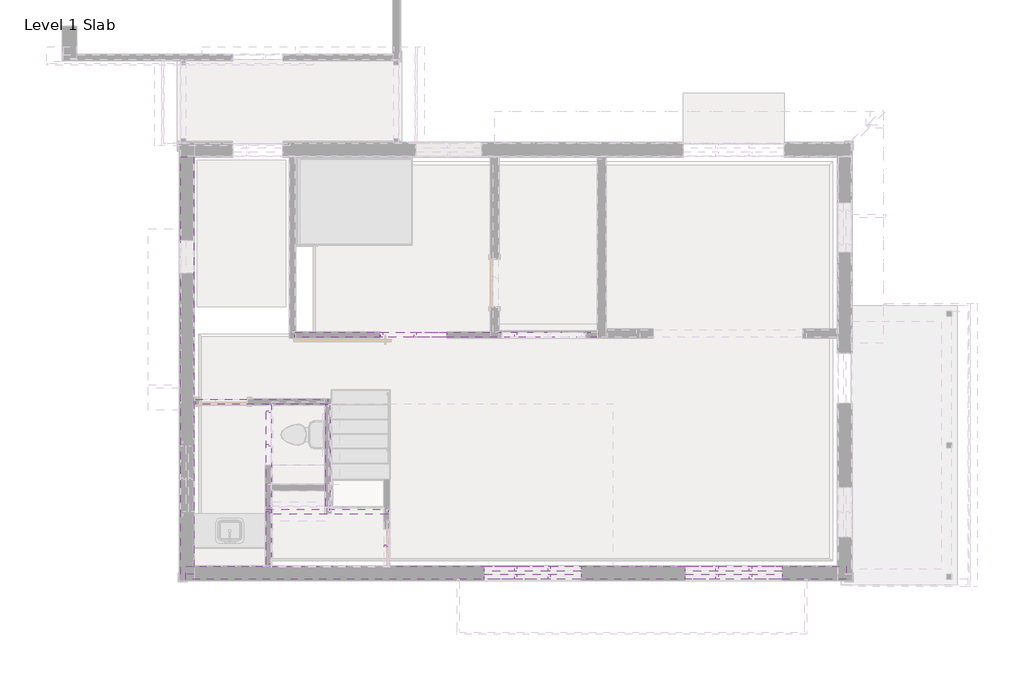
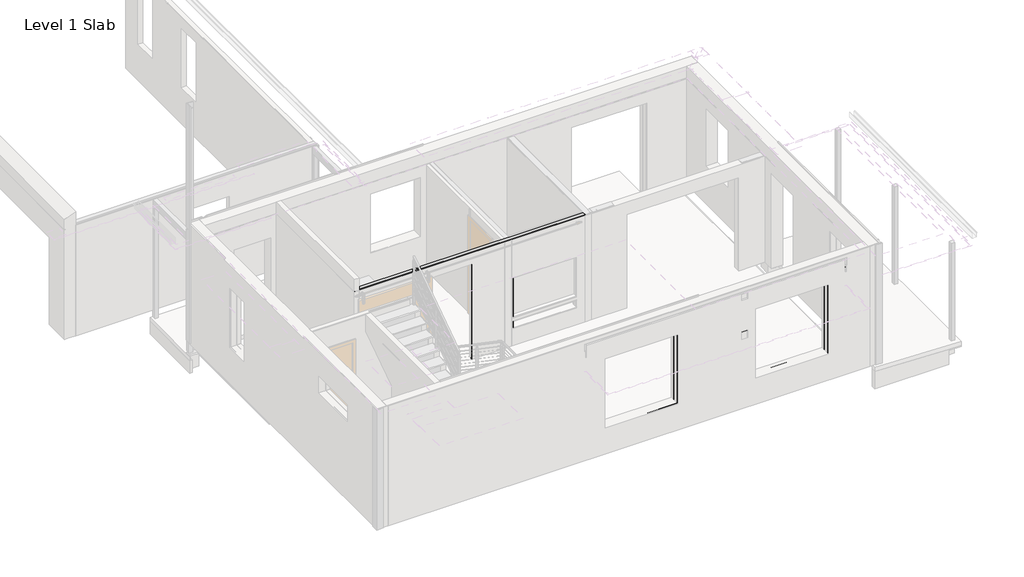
# One storey, part 6 of 11: 111 beams, 7 columns.
"""IFC4 building model written with IfcOpenShell, lengths in millimetres."""

from ifc_helpers import new_model, si_unit, frame, origin, origin_with_axes, place, context, project, spatial, polyline, outline, extrude, transform, mapped, element, save
from components import dimension_lumber_2x10_c92a85eb, dimension_lumber_2x2_2317ed5d, dimension_lumber_2x4_b7cbdda3, dimension_lumber_2x4_453c5e2a, dimension_lumber_2x4_9c6b7c22, dimension_lumber_2x4_907f3222, dimension_lumber_2x4_d0982e5f, dimension_lumber_2x4_7c62d23e, dimension_lumber_2x4_ef0ca650, dimension_lumber_2x4_1f531fe0, dimension_lumber_2x4_5fd0c0f3, dimension_lumber_2x4_c9b014b3, dimension_lumber_2x4_dd57d4c7, dimension_lumber_2x4_e5914599, dimension_lumber_2x4_663c5fc9, dimension_lumber_2x4_fd4f4c12, dimension_lumber_2x4_17c131d4, dimension_lumber_2x4_55c8757b, dimension_lumber_2x4_9698a521, dimension_lumber_2x4_aa235227, dimension_lumber_2x4_f36af3d6, dimension_lumber_2x4_25ed4124, dimension_lumber_2x4_69613563, dimension_lumber_2x4_8f77fd17, dimension_lumber_2x4_229769bb, dimension_lumber_2x4_09187953, dimension_lumber_2x4_d2ad68aa, dimension_lumber_2x4_ecf07961, dimension_lumber_2x4_0db79c5e, dimension_lumber_2x4_a540ea83, dimension_lumber_2x4_6003b979, dimension_lumber_2x4_857fd039, dimension_lumber_2x6_a165007b, dimension_lumber_4x10_6f7111f1, dimension_lumber_4x6_36e82c96, dimension_lumber_4x8_ae6d369a, dimension_lumber_4x8_cd9e6e79, dimension_lumber_4x8_08470016, column_4bd45d62, column_24c5454e

model = new_model("IFC4")

# Units and contexts
model_context = context("Model", 3, world=origin())
ifc_project = project(units=[si_unit("LENGTHUNIT", "METRE", prefix="MILLI")], contexts=[model_context])

# Site, building, storey
site = spatial("IfcSite", under=ifc_project)
building = spatial("IfcBuilding", under=site)
storey = spatial("IfcBuildingStorey", under=building, Name="Level 1 Slab", Elevation=0.0)

# Beams
placement = place(None, origin())
element("IfcBeam", 1, ObjectType="Dimension Lumber : 2x10", at=placement, inside=storey, context=model_context, shape_type="SweptSolid", body=[
    extrude(outline(polyline([(-13177.1678637, -4576.2650713), (-13177.1678637, -4341.3150713), (-1162.9678637, -4341.3150713), (-1162.9678637, -4576.2650713), (-13177.1678637, -4576.2650713)])), frame((0.0, 0.0, 2705.1), z_axis=(0.0, 0.0, 1.0), x_axis=(1.0, 0.0, 0.0)), (0.0, 0.0, 1.0), 38.1),
])
dimension_lumber_2x10_shape = dimension_lumber_2x10_c92a85eb(model_context)
element("IfcBeam", 2, ObjectType="Dimension Lumber : 2x10", at=placement, inside=storey, context=model_context, shape_type="MappedRepresentation", body=[
    mapped(dimension_lumber_2x10_shape, transform((-13148.5928637, -733.5040942, 2724.15), x_axis=(0.0, 1.0, 0.0), y_axis=(0.0, 0.0, -1.0), z_axis=(-1.0, 0.0, 0.0))),
])
dimension_lumber_2x2_shape = dimension_lumber_2x2_2317ed5d(model_context)
element("IfcBeam", 3, ObjectType="Dimension Lumber : 2x2", at=placement, inside=storey, context=model_context, shape_type="MappedRepresentation", body=[
    mapped(dimension_lumber_2x2_shape, transform((-7805.0678637, -4557.2150713, 1371.6), x_axis=(0.0, 0.0, 1.0), y_axis=(1.0, 0.0, 0.0), z_axis=(0.0, 1.0, 0.0))),
])
element("IfcBeam", 4, ObjectType="Dimension Lumber : 2x2", at=placement, inside=storey, context=model_context, shape_type="MappedRepresentation", body=[
    mapped(dimension_lumber_2x2_shape, transform((-5925.4678637, -4557.2150713, 1371.6), x_axis=(0.0, 0.0, 1.0), y_axis=(1.0, 0.0, 0.0), z_axis=(0.0, 1.0, 0.0))),
])
element("IfcBeam", 5, ObjectType="Dimension Lumber : 2x4", at=placement, inside=storey, context=model_context, shape_type="SweptSolid", body=[
    extrude(outline(polyline([(-1074.0678637, -4487.3650713), (-1074.0678637, -4576.2650713), (-13177.1678637, -4576.2650713), (-13177.1678637, -4487.3650713), (-1074.0678637, -4487.3650713)])), origin_with_axes(), (0.0, 0.0, 1.0), 38.1),
])
element("IfcBeam", 6, ObjectType="Dimension Lumber : 2x4", at=placement, inside=storey, context=model_context, shape_type="SweptSolid", body=[
    extrude(outline(polyline([(-1220.1178637, -4341.3150713), (-1220.1178637, -4430.2150713), (-1258.2178637, -4430.2150713), (-1258.2178637, -4341.3150713), (-1220.1178637, -4341.3150713)])), frame((0.0, 0.0, 38.1), z_axis=(0.0, 0.0, 1.0), x_axis=(1.0, 0.0, 0.0)), (0.0, 0.0, 1.0), 2667.0),
])
element("IfcBeam", 7, ObjectType="Dimension Lumber : 2x4", at=placement, inside=storey, context=model_context, shape_type="SweptSolid", body=[
    extrude(outline(polyline([(-10592.6970616, -1306.0150713), (-10592.6970616, -1394.9150713), (-12993.0178637, -1394.9150713), (-12993.0178637, -1306.0150713), (-10592.6970616, -1306.0150713)])), frame((0.0, 0.0, 2705.1), z_axis=(0.0, 0.0, 1.0), x_axis=(1.0, 0.0, 0.0)), (0.0, 0.0, 1.0), 38.1),
])
element("IfcBeam", 8, ObjectType="Dimension Lumber : 2x4", at=placement, inside=storey, context=model_context, shape_type="SweptSolid", body=[
    extrude(outline(polyline([(-12053.2078637, -1394.9150713), (-12053.2078637, -1306.0150713), (-10630.7970616, -1306.0150713), (-10630.7970616, -1394.9150713), (-12053.2078637, -1394.9150713)])), origin_with_axes(), (0.0, 0.0, 1.0), 38.1),
])
element("IfcBeam", 9, ObjectType="Dimension Lumber : 2x4", at=placement, inside=storey, context=model_context, shape_type="SweptSolid", body=[
    extrude(outline(polyline([(-10630.7970616, -1394.9150713), (-10541.8970616, -1394.9150713), (-10541.8970616, -3338.8234188), (-10630.7970616, -3338.8234188), (-10630.7970616, -1394.9150713)])), origin_with_axes(), (0.0, 0.0, 1.0), 38.1),
])
element("IfcBeam", 10, ObjectType="Dimension Lumber : 2x4", at=placement, inside=storey, context=model_context, shape_type="SweptSolid", body=[
    extrude(outline(polyline([(-10541.8970616, -1433.0250713), (-10630.7970616, -1433.0250713), (-10630.7970616, -1394.9250713), (-10541.8970616, -1394.9250713), (-10541.8970616, -1433.0250713)])), frame((0.0, 0.0, 38.1000006), z_axis=(0.0, 0.0, 1.0), x_axis=(1.0, 0.0, 0.0)), (0.0, 0.0, 1.0), 2548.6843055),
])
element("IfcBeam", 11, ObjectType="Dimension Lumber : 2x4", at=placement, inside=storey, context=model_context, shape_type="SweptSolid", body=[
    extrude(outline(polyline([(0.0, -10630.7970616), (38.1, -10630.7970616), (38.1, -11583.3178637), (0.0, -11621.4178637), (0.0, -10630.7970616)])), frame((0.0, -2957.0150713, 0.0), z_axis=(0.0, 1.0, 0.0), x_axis=(0.0, 0.0, 1.0)), (0.0, 0.0, 1.0), 88.9),
])
element("IfcBeam", 12, ObjectType="Dimension Lumber : 2x4", at=placement, inside=storey, context=model_context, shape_type="SweptSolid", body=[
    extrude(outline(polyline([(-10630.7970616, -2868.1150713), (-10630.7970616, -2957.0150713), (-10668.8970616, -2957.0150713), (-10668.8970616, -2868.1150713), (-10630.7970616, -2868.1150713)])), frame((0.0, 0.0, 38.1), z_axis=(0.0, 0.0, 1.0), x_axis=(1.0, 0.0, 0.0)), (0.0, 0.0, 1.0), 1538.9665467),
])
element("IfcBeam", 13, ObjectType="Dimension Lumber : 2x4", at=placement, inside=storey, context=model_context, shape_type="SweptSolid", body=[
    extrude(outline(polyline([(-11710.3178637, -2550.6150713), (-11621.4178637, -2550.6150713), (-11621.4178637, -4303.2150713), (-11710.3178637, -4303.2150713), (-11710.3178637, -2550.6150713)])), origin_with_axes(), (0.0, 0.0, 1.0), 38.1),
])
element("IfcBeam", 14, ObjectType="Dimension Lumber : 2x4", at=placement, inside=storey, context=model_context, shape_type="SweptSolid", body=[
    extrude(outline(polyline([(1577.0665467, -11583.3178637), (1577.0665467, -11621.4178637), (0.0, -11621.4178637), (38.1, -11583.3178637), (1577.0665467, -11583.3178637)])), frame((0.0, -2957.0150713, 0.0), z_axis=(0.0, 1.0, 0.0), x_axis=(0.0, 0.0, 1.0)), (0.0, 0.0, 1.0), 88.9),
])
element("IfcBeam", 15, ObjectType="Dimension Lumber : 2x4", at=placement, inside=storey, context=model_context, shape_type="SweptSolid", body=[
    extrude(outline(polyline([(-11189.6178637, -175.7150713), (-11189.6178637, -86.8150713), (-9735.4678637, -86.8150713), (-9735.4678637, -175.7150713), (-11189.6178637, -175.7150713)])), origin_with_axes(), (0.0, 0.0, 1.0), 38.1),
])
element("IfcBeam", 16, ObjectType="Dimension Lumber : 2x4", at=placement, inside=storey, context=model_context, shape_type="SweptSolid", body=[
    extrude(outline(polyline([(0.0, -88.9), (0.0, 0.0), (2225.2324098, 0.0), (2225.2324098, -88.9), (0.0, -88.9)])), frame((-11710.3178637, -3231.0724752, 1378.0514603), z_axis=(0.0, -0.5578690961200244, 0.8299289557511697), x_axis=(0.0, 0.8299289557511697, 0.5578690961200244)), (0.0, 0.0, 1.0), 38.1),
])
element("IfcBeam", 17, ObjectType="Dimension Lumber : 2x4", at=placement, inside=storey, context=model_context, shape_type="SweptSolid", body=[
    extrude(outline(polyline([(-9563.9970616, -1578.3109818), (-9475.0970616, -1578.3109818), (-9475.0970616, -3630.1150713), (-9563.9970616, -3630.1150713), (-9563.9970616, -1578.3109818)])), origin_with_axes(), (0.0, 0.0, 1.0), 38.1),
])
element("IfcBeam", 18, ObjectType="Dimension Lumber : 2x4", at=placement, inside=storey, context=model_context, shape_type="SweptSolid", body=[
    extrude(outline(polyline([(-1220.1178637, -4341.3150713), (-1309.0178637, -4341.3150713), (-1309.0178637, -4303.2150713), (-1220.1178637, -4303.2150713), (-1220.1178637, -4341.3150713)])), frame((0.0, 0.0, 38.1), z_axis=(0.0, 0.0, 1.0), x_axis=(1.0, 0.0, 0.0)), (0.0, 0.0, 1.0), 2667.0),
])
element("IfcBeam", 19, ObjectType="Dimension Lumber : 2x4", at=placement, inside=storey, context=model_context, shape_type="SweptSolid", body=[
    extrude(outline(polyline([(-1220.1178637, -4341.3150713), (-1220.1178637, -4430.2150713), (-13031.1178637, -4430.2150713), (-13031.1178637, -4341.3150713), (-1220.1178637, -4341.3150713)])), origin_with_axes(), (0.0, 0.0, 1.0), 38.1),
])
element("IfcBeam", 20, ObjectType="Dimension Lumber : 2x4", at=placement, inside=storey, context=model_context, shape_type="SweptSolid", body=[
    extrude(outline(polyline([(-8389.2678637, -175.7150713), (-8389.2678637, -86.8150713), (-5715.9178637, -86.8150713), (-5715.9178637, -175.7150713), (-8389.2678637, -175.7150713)])), origin_with_axes(), (0.0, 0.0, 1.0), 38.1),
])
element("IfcBeam", 21, ObjectType="Dimension Lumber : 2x4", at=placement, inside=storey, context=model_context, shape_type="SweptSolid", body=[
    extrude(outline(polyline([(0.0, -88.9), (0.0, 0.0), (2212.4272098, 0.0), (2212.4272098, -88.9), (0.0, -88.9)])), frame((-10630.7970616, -3231.0724752, 1381.2264603), z_axis=(0.0, -0.5578690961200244, 0.8299289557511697), x_axis=(0.0, 0.8299289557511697, 0.5578690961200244)), (0.0, 0.0, 1.0), 38.1),
])
element("IfcBeam", 22, ObjectType="Dimension Lumber : 2x4", at=placement, inside=storey, context=model_context, shape_type="SweptSolid", body=[
    extrude(outline(polyline([(0.0, -88.9), (0.0, 0.0), (2193.7748114, 0.0), (2193.7748114, -88.9), (0.0, -88.9)])), frame((-9475.0970616, -1521.6321641, 0.0), z_axis=(0.0, 0.5578804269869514, 0.829921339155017), x_axis=(0.0, -0.829921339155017, 0.5578804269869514)), (0.0, 0.0, 1.0), 38.1),
])
element("IfcBeam", 23, ObjectType="Dimension Lumber : 2x4", at=placement, inside=storey, context=model_context, shape_type="SweptSolid", body=[
    extrude(outline(polyline([(0.0, -10630.7970616), (38.1, -10630.7970616), (38.1, -11583.3178637), (0.0, -11621.4178637), (0.0, -10630.7970616)])), frame((0.0, -2601.4150713, 0.0), z_axis=(0.0, 1.0, 0.0), x_axis=(0.0, 0.0, 1.0)), (0.0, 0.0, 1.0), 88.9),
])
element("IfcBeam", 24, ObjectType="Dimension Lumber : 2x4", at=placement, inside=storey, context=model_context, shape_type="SweptSolid", body=[
    extrude(outline(polyline([(-10630.7970616, -2512.5150713), (-10630.7970616, -2601.4150713), (-10668.8970616, -2601.4150713), (-10668.8970616, -2512.5150713), (-10630.7970616, -2512.5150713)])), frame((0.0, 0.0, 38.1), z_axis=(0.0, 0.0, 1.0), x_axis=(1.0, 0.0, 0.0)), (0.0, 0.0, 1.0), 990.6),
])
element("IfcBeam", 25, ObjectType="Dimension Lumber : 2x4", at=placement, inside=storey, context=model_context, shape_type="SweptSolid", body=[
    extrude(outline(polyline([(1028.7, -11583.3178637), (1028.7, -11621.4178637), (0.0, -11621.4178637), (38.1, -11583.3178637), (1028.7, -11583.3178637)])), frame((0.0, -2601.4150713, 0.0), z_axis=(0.0, 1.0, 0.0), x_axis=(0.0, 0.0, 1.0)), (0.0, 0.0, 1.0), 88.9),
])
element("IfcBeam", 26, ObjectType="Dimension Lumber : 2x4", at=placement, inside=storey, context=model_context, shape_type="SweptSolid", body=[
    extrude(outline(polyline([(-10630.7970616, -2512.5150713), (-10630.7970616, -2601.4150713), (-11621.4178637, -2601.4150713), (-11621.4178637, -2512.5150713), (-10630.7970616, -2512.5150713)])), frame((0.0, 0.0, 1028.7), z_axis=(0.0, 0.0, 1.0), x_axis=(1.0, 0.0, 0.0)), (0.0, 0.0, 1.0), 38.1),
])
element("IfcBeam", 27, ObjectType="Dimension Lumber : 2x4", at=placement, inside=storey, context=model_context, shape_type="SweptSolid", body=[
    extrude(outline(polyline([(-10630.7970616, -2830.0150713), (-10630.7970616, -2868.1150713), (-11621.4178637, -2868.1150713), (-11621.4178637, -2830.0150713), (-10630.7970616, -2830.0150713)])), frame((0.0, 0.0, 977.9), z_axis=(0.0, 0.0, 1.0), x_axis=(1.0, 0.0, 0.0)), (0.0, 0.0, 1.0), 88.9),
])
element("IfcBeam", 28, ObjectType="Dimension Lumber : 2x4", at=placement, inside=storey, context=model_context, shape_type="SweptSolid", body=[
    extrude(outline(polyline([(-11456.3178637, -2601.4150713), (-11418.2178637, -2601.4150713), (-11418.2178637, -2830.0150713), (-11456.3178637, -2830.0150713), (-11456.3178637, -2601.4150713)])), frame((0.0, 0.0, 977.9), z_axis=(0.0, 0.0, 1.0), x_axis=(1.0, 0.0, 0.0)), (0.0, 0.0, 1.0), 88.9),
])
element("IfcBeam", 29, ObjectType="Dimension Lumber : 2x4", at=placement, inside=storey, context=model_context, shape_type="SweptSolid", body=[
    extrude(outline(polyline([(-10846.7178637, -2601.4150713), (-10808.6178637, -2601.4150713), (-10808.6178637, -2830.0150713), (-10846.7178637, -2830.0150713), (-10846.7178637, -2601.4150713)])), frame((0.0, 0.0, 977.9), z_axis=(0.0, 0.0, 1.0), x_axis=(1.0, 0.0, 0.0)), (0.0, 0.0, 1.0), 88.9),
])
element("IfcBeam", 30, ObjectType="Dimension Lumber : 2x4", at=placement, inside=storey, context=model_context, shape_type="SweptSolid", body=[
    extrude(outline(polyline([(-10630.7970616, -2766.5150713), (-10592.6970616, -2766.5150713), (-10592.6970616, -3338.8234188), (-10630.7970616, -3338.8234188), (-10630.7970616, -2766.5150713)])), frame((0.0, 0.0, 977.9), z_axis=(0.0, 0.0, 1.0), x_axis=(1.0, 0.0, 0.0)), (0.0, 0.0, 1.0), 88.9),
])
element("IfcBeam", 31, ObjectType="Dimension Lumber : 2x4", at=placement, inside=storey, context=model_context, shape_type="SweptSolid", body=[
    extrude(outline(polyline([(-10630.7970616, -2156.9150713), (-10592.6970616, -2156.9150713), (-10592.6970616, -2728.4150713), (-10630.7970616, -2728.4150713), (-10630.7970616, -2156.9150713)])), frame((0.0, 0.0, 977.9), z_axis=(0.0, 0.0, 1.0), x_axis=(1.0, 0.0, 0.0)), (0.0, 0.0, 1.0), 88.9),
])
dimension_lumber_2x4_shape = dimension_lumber_2x4_b7cbdda3(model_context)
element("IfcBeam", 32, ObjectType="Dimension Lumber : 2x4", at=placement, inside=storey, context=model_context, shape_type="MappedRepresentation", body=[
    mapped(dimension_lumber_2x4_shape, transform((-1683.6678637, -4531.8150713, 1371.6), x_axis=(0.0, 0.0, 1.0), y_axis=(1.0, 0.0, 0.0), z_axis=(0.0, 1.0, 0.0))),
])
element("IfcBeam", 33, ObjectType="Dimension Lumber : 2x4", at=placement, inside=storey, context=model_context, shape_type="MappedRepresentation", body=[
    mapped(dimension_lumber_2x4_shape, transform((-4731.1803637, -4531.8150713, 1371.6), x_axis=(0.0, 0.0, 1.0), y_axis=(1.0, 0.0, 0.0), z_axis=(0.0, 1.0, 0.0))),
])
element("IfcBeam", 34, ObjectType="Dimension Lumber : 2x4", at=placement, inside=storey, context=model_context, shape_type="MappedRepresentation", body=[
    mapped(dimension_lumber_2x4_shape, transform((-5963.5678637, -4531.8150713, 1371.6), x_axis=(0.0, 0.0, 1.0), y_axis=(1.0, 0.0, 0.0), z_axis=(0.0, 1.0, 0.0))),
])
element("IfcBeam", 35, ObjectType="Dimension Lumber : 2x4", at=placement, inside=storey, context=model_context, shape_type="MappedRepresentation", body=[
    mapped(dimension_lumber_2x4_shape, transform((-7766.9678637, -4531.8150713, 1371.6), x_axis=(0.0, 0.0, 1.0), y_axis=(1.0, 0.0, 0.0), z_axis=(0.0, 1.0, 0.0))),
])
element("IfcBeam", 36, ObjectType="Dimension Lumber : 2x4", at=placement, inside=storey, context=model_context, shape_type="MappedRepresentation", body=[
    mapped(dimension_lumber_2x4_shape, transform((-10827.6678637, -1350.4650713, 1371.6), x_axis=(0.0, 0.0, 1.0), y_axis=(1.0, 0.0, 0.0), z_axis=(0.0, 1.0, 0.0))),
])
element("IfcBeam", 37, ObjectType="Dimension Lumber : 2x4", at=placement, inside=storey, context=model_context, shape_type="MappedRepresentation", body=[
    mapped(dimension_lumber_2x4_shape, transform((-11436.1678637, -1350.4650713, 1371.6), x_axis=(0.0, 0.0, 1.0), y_axis=(1.0, 0.0, 0.0), z_axis=(0.0, 1.0, 0.0))),
])
element("IfcBeam", 38, ObjectType="Dimension Lumber : 2x4", at=placement, inside=storey, context=model_context, shape_type="MappedRepresentation", body=[
    mapped(dimension_lumber_2x4_shape, transform((-11665.8678637, -3966.6650713, 1371.6), x_axis=(0.0, 0.0, 1.0), y_axis=(0.0, -1.0, 0.0), z_axis=(1.0, 0.0, 0.0))),
])
element("IfcBeam", 39, ObjectType="Dimension Lumber : 2x4", at=placement, inside=storey, context=model_context, shape_type="MappedRepresentation", body=[
    mapped(dimension_lumber_2x4_shape, transform((-11665.8678637, -2747.4650713, 1371.6), x_axis=(0.0, 0.0, 1.0), y_axis=(0.0, -1.0, 0.0), z_axis=(1.0, 0.0, 0.0))),
])
element("IfcBeam", 40, ObjectType="Dimension Lumber : 2x4", at=placement, inside=storey, context=model_context, shape_type="MappedRepresentation", body=[
    mapped(dimension_lumber_2x4_shape, transform((-10827.6678637, -131.2650713, 1371.6), x_axis=(0.0, 0.0, 1.0), y_axis=(1.0, 0.0, 0.0), z_axis=(0.0, 1.0, 0.0))),
])
element("IfcBeam", 41, ObjectType="Dimension Lumber : 2x4", at=placement, inside=storey, context=model_context, shape_type="MappedRepresentation", body=[
    mapped(dimension_lumber_2x4_shape, transform((-10218.0678637, -131.2650713, 1371.6), x_axis=(0.0, 0.0, 1.0), y_axis=(1.0, 0.0, 0.0), z_axis=(0.0, 1.0, 0.0))),
])
element("IfcBeam", 42, ObjectType="Dimension Lumber : 2x4", at=placement, inside=storey, context=model_context, shape_type="MappedRepresentation", body=[
    mapped(dimension_lumber_2x4_shape, transform((-7779.6678637, -131.2650713, 1371.6), x_axis=(0.0, 0.0, 1.0), y_axis=(1.0, 0.0, 0.0), z_axis=(0.0, 1.0, 0.0))),
])
element("IfcBeam", 43, ObjectType="Dimension Lumber : 2x4", at=placement, inside=storey, context=model_context, shape_type="MappedRepresentation", body=[
    mapped(dimension_lumber_2x4_shape, transform((-7446.2928637, -131.2650713, 1371.6), x_axis=(0.0, 0.0, 1.0), y_axis=(1.0, 0.0, 0.0), z_axis=(0.0, 1.0, 0.0))),
])
element("IfcBeam", 44, ObjectType="Dimension Lumber : 2x4", at=placement, inside=storey, context=model_context, shape_type="MappedRepresentation", body=[
    mapped(dimension_lumber_2x4_shape, transform((-1683.6678637, -4385.7650713, 1371.6), x_axis=(0.0, 0.0, 1.0), y_axis=(1.0, 0.0, 0.0), z_axis=(0.0, 1.0, 0.0))),
])
element("IfcBeam", 45, ObjectType="Dimension Lumber : 2x4", at=placement, inside=storey, context=model_context, shape_type="MappedRepresentation", body=[
    mapped(dimension_lumber_2x4_shape, transform((-4731.1803637, -4385.7650713, 1371.6), x_axis=(0.0, 0.0, 1.0), y_axis=(1.0, 0.0, 0.0), z_axis=(0.0, 1.0, 0.0))),
])
element("IfcBeam", 46, ObjectType="Dimension Lumber : 2x4", at=placement, inside=storey, context=model_context, shape_type="MappedRepresentation", body=[
    mapped(dimension_lumber_2x4_shape, transform((-2305.9678637, -4385.7650713, 1371.6), x_axis=(0.0, 0.0, 1.0), y_axis=(1.0, 0.0, 0.0), z_axis=(0.0, 1.0, 0.0))),
])
element("IfcBeam", 47, ObjectType="Dimension Lumber : 2x4", at=placement, inside=storey, context=model_context, shape_type="MappedRepresentation", body=[
    mapped(dimension_lumber_2x4_shape, transform((-4109.3678637, -4385.7650713, 1371.6), x_axis=(0.0, 0.0, 1.0), y_axis=(1.0, 0.0, 0.0), z_axis=(0.0, 1.0, 0.0))),
])
element("IfcBeam", 48, ObjectType="Dimension Lumber : 2x4", at=placement, inside=storey, context=model_context, shape_type="MappedRepresentation", body=[
    mapped(dimension_lumber_2x4_shape, transform((-5963.5678637, -4385.7650713, 1371.6), x_axis=(0.0, 0.0, 1.0), y_axis=(1.0, 0.0, 0.0), z_axis=(0.0, 1.0, 0.0))),
])
element("IfcBeam", 49, ObjectType="Dimension Lumber : 2x4", at=placement, inside=storey, context=model_context, shape_type="MappedRepresentation", body=[
    mapped(dimension_lumber_2x4_shape, transform((-7766.9678637, -4385.7650713, 1371.6), x_axis=(0.0, 0.0, 1.0), y_axis=(1.0, 0.0, 0.0), z_axis=(0.0, 1.0, 0.0))),
])
element("IfcBeam", 50, ObjectType="Dimension Lumber : 2x4", at=placement, inside=storey, context=model_context, shape_type="MappedRepresentation", body=[
    mapped(dimension_lumber_2x4_shape, transform((-5340.7803637, -4385.7650713, 1371.6), x_axis=(0.0, 0.0, 1.0), y_axis=(1.0, 0.0, 0.0), z_axis=(0.0, 1.0, 0.0))),
])
dimension_lumber_2x4_2_shape = dimension_lumber_2x4_453c5e2a(model_context)
element("IfcBeam", 51, ObjectType="Dimension Lumber : 2x4", at=placement, inside=storey, context=model_context, shape_type="MappedRepresentation", body=[
    mapped(dimension_lumber_2x4_2_shape, transform((-13221.6178637, -309.0650713, 1371.6), x_axis=(0.0, 0.0, 1.0), y_axis=(0.0, 1.0, 0.0), z_axis=(-1.0, 0.0, 0.0))),
])
element("IfcBeam", 52, ObjectType="Dimension Lumber : 2x4", at=placement, inside=storey, context=model_context, shape_type="MappedRepresentation", body=[
    mapped(dimension_lumber_2x4_2_shape, transform((-13221.6178637, -918.6650713, 1371.6), x_axis=(0.0, 0.0, 1.0), y_axis=(0.0, 1.0, 0.0), z_axis=(-1.0, 0.0, 0.0))),
])
element("IfcBeam", 53, ObjectType="Dimension Lumber : 2x4", at=placement, inside=storey, context=model_context, shape_type="MappedRepresentation", body=[
    mapped(dimension_lumber_2x4_2_shape, transform((-13075.5678637, -309.0650713, 1371.6), x_axis=(0.0, 0.0, 1.0), y_axis=(0.0, 1.0, 0.0), z_axis=(-1.0, 0.0, 0.0))),
])
element("IfcBeam", 54, ObjectType="Dimension Lumber : 2x4", at=placement, inside=storey, context=model_context, shape_type="MappedRepresentation", body=[
    mapped(dimension_lumber_2x4_2_shape, transform((-13075.5678637, -918.6650713, 1371.6), x_axis=(0.0, 0.0, 1.0), y_axis=(0.0, 1.0, 0.0), z_axis=(-1.0, 0.0, 0.0))),
])
dimension_lumber_2x4_3_shape = dimension_lumber_2x4_9c6b7c22(model_context)
element("IfcBeam", 55, ObjectType="Dimension Lumber : 2x4", at=placement, inside=storey, context=model_context, shape_type="MappedRepresentation", body=[
    mapped(dimension_lumber_2x4_3_shape, transform((-8408.3178637, -131.2650713, 1362.075), x_axis=(0.0, 0.0, 1.0), y_axis=(1.0, 0.0, 0.0), z_axis=(0.0, 1.0, 0.0))),
])
dimension_lumber_2x4_4_shape = dimension_lumber_2x4_907f3222(model_context)
element("IfcBeam", 56, ObjectType="Dimension Lumber : 2x4", at=placement, inside=storey, context=model_context, shape_type="MappedRepresentation", body=[
    mapped(dimension_lumber_2x4_4_shape, transform((-1118.5178637, -4468.3150713, 1371.6), x_axis=(0.0, 0.0, 1.0), y_axis=(0.0, -1.0, 0.0), z_axis=(1.0, 0.0, 0.0))),
])
dimension_lumber_2x4_5_shape = dimension_lumber_2x4_d0982e5f(model_context)
element("IfcBeam", 57, ObjectType="Dimension Lumber : 2x4", at=placement, inside=storey, context=model_context, shape_type="MappedRepresentation", body=[
    mapped(dimension_lumber_2x4_5_shape, transform((-6560.4678637, -4531.8150713, 2663.825), x_axis=(0.0, 0.0, 1.0), y_axis=(1.0, 0.0, 0.0), z_axis=(0.0, 1.0, 0.0))),
])
element("IfcBeam", 58, ObjectType="Dimension Lumber : 2x4", at=placement, inside=storey, context=model_context, shape_type="MappedRepresentation", body=[
    mapped(dimension_lumber_2x4_5_shape, transform((-7170.0678637, -4531.8150713, 2663.825), x_axis=(0.0, 0.0, 1.0), y_axis=(1.0, 0.0, 0.0), z_axis=(0.0, 1.0, 0.0))),
])
dimension_lumber_2x4_6_shape = dimension_lumber_2x4_7c62d23e(model_context)
element("IfcBeam", 59, ObjectType="Dimension Lumber : 2x4", at=placement, inside=storey, context=model_context, shape_type="MappedRepresentation", body=[
    mapped(dimension_lumber_2x4_6_shape, transform((-2902.8678637, -4385.7650713, 2590.8), x_axis=(0.0, 0.0, 1.0), y_axis=(1.0, 0.0, 0.0), z_axis=(0.0, 1.0, 0.0))),
])
element("IfcBeam", 60, ObjectType="Dimension Lumber : 2x4", at=placement, inside=storey, context=model_context, shape_type="MappedRepresentation", body=[
    mapped(dimension_lumber_2x4_6_shape, transform((-3512.4678637, -4385.7650713, 2590.8), x_axis=(0.0, 0.0, 1.0), y_axis=(1.0, 0.0, 0.0), z_axis=(0.0, 1.0, 0.0))),
])
element("IfcBeam", 61, ObjectType="Dimension Lumber : 2x4", at=placement, inside=storey, context=model_context, shape_type="MappedRepresentation", body=[
    mapped(dimension_lumber_2x4_6_shape, transform((-6560.4678637, -4385.7650713, 2590.8), x_axis=(0.0, 0.0, 1.0), y_axis=(1.0, 0.0, 0.0), z_axis=(0.0, 1.0, 0.0))),
])
element("IfcBeam", 62, ObjectType="Dimension Lumber : 2x4", at=placement, inside=storey, context=model_context, shape_type="MappedRepresentation", body=[
    mapped(dimension_lumber_2x4_6_shape, transform((-7170.0678637, -4385.7650713, 2590.8), x_axis=(0.0, 0.0, 1.0), y_axis=(1.0, 0.0, 0.0), z_axis=(0.0, 1.0, 0.0))),
])
dimension_lumber_2x4_7_shape = dimension_lumber_2x4_ef0ca650(model_context)
element("IfcBeam", 63, ObjectType="Dimension Lumber : 2x4", at=placement, inside=storey, context=model_context, shape_type="MappedRepresentation", body=[
    mapped(dimension_lumber_2x4_7_shape, transform((-9519.5470616, -3966.6650713, 1365.6235294), x_axis=(0.0, 0.0, 1.0), y_axis=(0.0, -1.0, 0.0), z_axis=(1.0, 0.0, 0.0))),
])
dimension_lumber_2x4_8_shape = dimension_lumber_2x4_1f531fe0(model_context)
element("IfcBeam", 64, ObjectType="Dimension Lumber : 2x4", at=placement, inside=storey, context=model_context, shape_type="MappedRepresentation", body=[
    mapped(dimension_lumber_2x4_8_shape, transform((-9519.5470616, -3649.1650713, 733.7985294), x_axis=(0.0, 0.0, 1.0), y_axis=(0.0, -1.0, 0.0), z_axis=(1.0, 0.0, 0.0))),
])
dimension_lumber_2x4_9_shape = dimension_lumber_2x4_5fd0c0f3(model_context)
element("IfcBeam", 65, ObjectType="Dimension Lumber : 2x4", at=placement, inside=storey, context=model_context, shape_type="MappedRepresentation", body=[
    mapped(dimension_lumber_2x4_9_shape, transform((-11665.8678637, -3357.8734188, 721.0985294), x_axis=(0.0, 0.0, 1.0), y_axis=(0.0, -1.0, 0.0), z_axis=(1.0, 0.0, 0.0))),
])
element("IfcBeam", 66, ObjectType="Dimension Lumber : 2x4", at=placement, inside=storey, context=model_context, shape_type="MappedRepresentation", body=[
    mapped(dimension_lumber_2x4_9_shape, transform((-9519.5470616, -3350.7150713, 721.0985294), x_axis=(0.0, 0.0, 1.0), y_axis=(0.0, -1.0, 0.0), z_axis=(1.0, 0.0, 0.0))),
])
element("IfcBeam", 67, ObjectType="Dimension Lumber : 2x4", at=placement, inside=storey, context=model_context, shape_type="MappedRepresentation", body=[
    mapped(dimension_lumber_2x4_9_shape, transform((-9519.5470616, -3388.8150713, 721.0985294), x_axis=(0.0, 0.0, 1.0), y_axis=(0.0, -1.0, 0.0), z_axis=(1.0, 0.0, 0.0))),
])
dimension_lumber_2x4_10_shape = dimension_lumber_2x4_c9b014b3(model_context)
element("IfcBeam", 68, ObjectType="Dimension Lumber : 2x4", at=placement, inside=storey, context=model_context, shape_type="MappedRepresentation", body=[
    mapped(dimension_lumber_2x4_10_shape, transform((-10586.3470616, -3357.8734188, 711.5735294), x_axis=(0.0, 0.0, 1.0), y_axis=(0.0, -1.0, 0.0), z_axis=(1.0, 0.0, 0.0))),
])
dimension_lumber_2x4_11_shape = dimension_lumber_2x4_dd57d4c7(model_context)
element("IfcBeam", 69, ObjectType="Dimension Lumber : 2x4", at=placement, inside=storey, context=model_context, shape_type="MappedRepresentation", body=[
    mapped(dimension_lumber_2x4_11_shape, transform((-10586.3470616, -2137.8650713, 1069.1467136), x_axis=(0.0, 0.0, 1.0), y_axis=(0.0, -1.0, 0.0), z_axis=(1.0, 0.0, 0.0))),
])
dimension_lumber_2x4_12_shape = dimension_lumber_2x4_e5914599(model_context)
element("IfcBeam", 70, ObjectType="Dimension Lumber : 2x4", at=placement, inside=storey, context=model_context, shape_type="MappedRepresentation", body=[
    mapped(dimension_lumber_2x4_12_shape, transform((-10586.3470616, -2747.4650713, 864.2635133), x_axis=(0.0, 0.0, 1.0), y_axis=(0.0, -1.0, 0.0), z_axis=(1.0, 0.0, 0.0))),
])
dimension_lumber_2x4_13_shape = dimension_lumber_2x4_663c5fc9(model_context)
element("IfcBeam", 71, ObjectType="Dimension Lumber : 2x4", at=placement, inside=storey, context=model_context, shape_type="MappedRepresentation", body=[
    mapped(dimension_lumber_2x4_13_shape, transform((-10586.3470616, -1528.2650713, 1274.0299139), x_axis=(0.0, 0.0, 1.0), y_axis=(0.0, -1.0, 0.0), z_axis=(1.0, 0.0, 0.0))),
])
dimension_lumber_2x4_14_shape = dimension_lumber_2x4_fd4f4c12(model_context)
element("IfcBeam", 72, ObjectType="Dimension Lumber : 2x4", at=placement, inside=storey, context=model_context, shape_type="MappedRepresentation", body=[
    mapped(dimension_lumber_2x4_14_shape, transform((-11437.2678637, -2912.5650713, 923.4395055), x_axis=(0.0, 0.0, 1.0), y_axis=(1.0, 0.0, 0.0), z_axis=(0.0, 1.0, 0.0))),
])
dimension_lumber_2x4_15_shape = dimension_lumber_2x4_17c131d4(model_context)
element("IfcBeam", 73, ObjectType="Dimension Lumber : 2x4", at=placement, inside=storey, context=model_context, shape_type="MappedRepresentation", body=[
    mapped(dimension_lumber_2x4_15_shape, transform((-9519.5470616, -2747.4650713, 427.8828334), x_axis=(0.0, 0.0, 1.0), y_axis=(0.0, -1.0, 0.0), z_axis=(1.0, 0.0, 0.0))),
])
dimension_lumber_2x4_16_shape = dimension_lumber_2x4_55c8757b(model_context)
element("IfcBeam", 74, ObjectType="Dimension Lumber : 2x4", at=placement, inside=storey, context=model_context, shape_type="MappedRepresentation", body=[
    mapped(dimension_lumber_2x4_16_shape, transform((-9519.5470616, -2137.8650713, 222.9935913), x_axis=(0.0, 0.0, 1.0), y_axis=(0.0, -1.0, 0.0), z_axis=(1.0, 0.0, 0.0))),
])
dimension_lumber_2x4_17_shape = dimension_lumber_2x4_9698a521(model_context)
element("IfcBeam", 75, ObjectType="Dimension Lumber : 2x4", at=placement, inside=storey, context=model_context, shape_type="MappedRepresentation", body=[
    mapped(dimension_lumber_2x4_17_shape, transform((-11665.8678637, -2868.1150713, 2724.15), x_axis=(0.0, 1.0, 0.0), y_axis=(0.0, 0.0, -1.0), z_axis=(-1.0, 0.0, 0.0))),
])
dimension_lumber_2x4_18_shape = dimension_lumber_2x4_aa235227(model_context)
element("IfcBeam", 76, ObjectType="Dimension Lumber : 2x4", at=placement, inside=storey, context=model_context, shape_type="MappedRepresentation", body=[
    mapped(dimension_lumber_2x4_18_shape, transform((-2902.8678637, -4531.8150713, 2689.225), x_axis=(0.0, 0.0, 1.0), y_axis=(1.0, 0.0, 0.0), z_axis=(0.0, 1.0, 0.0))),
])
element("IfcBeam", 77, ObjectType="Dimension Lumber : 2x4", at=placement, inside=storey, context=model_context, shape_type="MappedRepresentation", body=[
    mapped(dimension_lumber_2x4_18_shape, transform((-3512.4678637, -4531.8150713, 2689.225), x_axis=(0.0, 0.0, 1.0), y_axis=(1.0, 0.0, 0.0), z_axis=(0.0, 1.0, 0.0))),
])
dimension_lumber_2x4_19_shape = dimension_lumber_2x4_f36af3d6(model_context)
element("IfcBeam", 78, ObjectType="Dimension Lumber : 2x4", at=placement, inside=storey, context=model_context, shape_type="MappedRepresentation", body=[
    mapped(dimension_lumber_2x4_19_shape, transform((-11665.8678637, -3357.8734188, 2146.6735294), x_axis=(0.0, 0.0, 1.0), y_axis=(0.0, -1.0, 0.0), z_axis=(1.0, 0.0, 0.0))),
])
dimension_lumber_2x4_20_shape = dimension_lumber_2x4_25ed4124(model_context)
element("IfcBeam", 79, ObjectType="Dimension Lumber : 2x4", at=placement, inside=storey, context=model_context, shape_type="MappedRepresentation", body=[
    mapped(dimension_lumber_2x4_20_shape, transform((-11665.8678637, -2137.8650713, 2425.6004856), x_axis=(0.0, 0.0, 1.0), y_axis=(0.0, -1.0, 0.0), z_axis=(1.0, 0.0, 0.0))),
])
dimension_lumber_2x4_21_shape = dimension_lumber_2x4_69613563(model_context)
element("IfcBeam", 80, ObjectType="Dimension Lumber : 2x4", at=placement, inside=storey, context=model_context, shape_type="MappedRepresentation", body=[
    mapped(dimension_lumber_2x4_21_shape, transform((-9608.4678637, -131.2650713, 2670.175), x_axis=(0.0, 0.0, 1.0), y_axis=(1.0, 0.0, 0.0), z_axis=(0.0, 1.0, 0.0))),
])
element("IfcBeam", 81, ObjectType="Dimension Lumber : 2x4", at=placement, inside=storey, context=model_context, shape_type="MappedRepresentation", body=[
    mapped(dimension_lumber_2x4_21_shape, transform((-8998.8678637, -131.2650713, 2670.175), x_axis=(0.0, 0.0, 1.0), y_axis=(1.0, 0.0, 0.0), z_axis=(0.0, 1.0, 0.0))),
])
dimension_lumber_2x4_22_shape = dimension_lumber_2x4_8f77fd17(model_context)
element("IfcBeam", 82, ObjectType="Dimension Lumber : 2x4", at=placement, inside=storey, context=model_context, shape_type="MappedRepresentation", body=[
    mapped(dimension_lumber_2x4_22_shape, transform((-11665.8678637, -1528.2650713, 2630.4836859), x_axis=(0.0, 0.0, 1.0), y_axis=(0.0, -1.0, 0.0), z_axis=(1.0, 0.0, 0.0))),
])
dimension_lumber_2x4_23_shape = dimension_lumber_2x4_229769bb(model_context)
element("IfcBeam", 83, ObjectType="Dimension Lumber : 2x4", at=placement, inside=storey, context=model_context, shape_type="MappedRepresentation", body=[
    mapped(dimension_lumber_2x4_23_shape, transform((-6865.2678637, -4531.8150713, 654.05), x_axis=(-1.0, 0.0, 0.0), y_axis=(0.0, 0.0, -1.0), z_axis=(0.0, -1.0, 0.0))),
])
element("IfcBeam", 84, ObjectType="Dimension Lumber : 2x4", at=placement, inside=storey, context=model_context, shape_type="MappedRepresentation", body=[
    mapped(dimension_lumber_2x4_23_shape, transform((-3207.6678637, -4385.7650713, 2457.45), x_axis=(-1.0000000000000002, 0.0, 0.0), y_axis=(0.0, 0.0, -1.0000000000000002), z_axis=(0.0, -1.0000000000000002, 0.0))),
])
element("IfcBeam", 85, ObjectType="Dimension Lumber : 2x4", at=placement, inside=storey, context=model_context, shape_type="MappedRepresentation", body=[
    mapped(dimension_lumber_2x4_23_shape, transform((-6865.2678637, -4385.7650713, 2457.45), x_axis=(-1.0000000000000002, 0.0, 0.0), y_axis=(0.0, 0.0, -1.0000000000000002), z_axis=(0.0, -1.0000000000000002, 0.0))),
])
element("IfcBeam", 86, ObjectType="Dimension Lumber : 2x4", at=placement, inside=storey, context=model_context, shape_type="MappedRepresentation", body=[
    mapped(dimension_lumber_2x4_23_shape, transform((-3207.6678637, -4385.7650713, 654.05), x_axis=(-1.0, 0.0, 0.0), y_axis=(0.0, 0.0, -1.0), z_axis=(0.0, -1.0, 0.0))),
])
element("IfcBeam", 87, ObjectType="Dimension Lumber : 2x4", at=placement, inside=storey, context=model_context, shape_type="MappedRepresentation", body=[
    mapped(dimension_lumber_2x4_23_shape, transform((-6865.2678637, -4385.7650713, 654.05), x_axis=(-1.0, 0.0, 0.0), y_axis=(0.0, 0.0, -1.0), z_axis=(0.0, -1.0, 0.0))),
])
element("IfcBeam", 88, ObjectType="Dimension Lumber : 2x4", at=placement, inside=storey, context=model_context, shape_type="MappedRepresentation", body=[
    mapped(dimension_lumber_2x4_23_shape, transform((-3207.6678637, -4531.8150713, 654.05), x_axis=(-1.0, 0.0, 0.0), y_axis=(0.0, 0.0, -1.0), z_axis=(0.0, -1.0, 0.0))),
])
dimension_lumber_2x4_24_shape = dimension_lumber_2x4_09187953(model_context)
element("IfcBeam", 89, ObjectType="Dimension Lumber : 2x4", at=placement, inside=storey, context=model_context, shape_type="MappedRepresentation", body=[
    mapped(dimension_lumber_2x4_24_shape, transform((-7170.0678637, -4531.8150713, 336.55), x_axis=(0.0, 0.0, 1.0), y_axis=(1.0, 0.0, 0.0), z_axis=(0.0, 1.0, 0.0))),
])
element("IfcBeam", 90, ObjectType="Dimension Lumber : 2x4", at=placement, inside=storey, context=model_context, shape_type="MappedRepresentation", body=[
    mapped(dimension_lumber_2x4_24_shape, transform((-6560.4678637, -4531.8150713, 336.55), x_axis=(0.0, 0.0, 1.0), y_axis=(1.0, 0.0, 0.0), z_axis=(0.0, 1.0, 0.0))),
])
element("IfcBeam", 91, ObjectType="Dimension Lumber : 2x4", at=placement, inside=storey, context=model_context, shape_type="MappedRepresentation", body=[
    mapped(dimension_lumber_2x4_24_shape, transform((-2902.8678637, -4531.8150713, 336.55), x_axis=(0.0, 0.0, 1.0), y_axis=(1.0, 0.0, 0.0), z_axis=(0.0, 1.0, 0.0))),
])
element("IfcBeam", 92, ObjectType="Dimension Lumber : 2x4", at=placement, inside=storey, context=model_context, shape_type="MappedRepresentation", body=[
    mapped(dimension_lumber_2x4_24_shape, transform((-3512.4678637, -4531.8150713, 336.55), x_axis=(0.0, 0.0, 1.0), y_axis=(1.0, 0.0, 0.0), z_axis=(0.0, 1.0, 0.0))),
])
element("IfcBeam", 93, ObjectType="Dimension Lumber : 2x4", at=placement, inside=storey, context=model_context, shape_type="MappedRepresentation", body=[
    mapped(dimension_lumber_2x4_24_shape, transform((-7170.0678637, -4385.7650713, 336.55), x_axis=(0.0, 0.0, 1.0), y_axis=(1.0, 0.0, 0.0), z_axis=(0.0, 1.0, 0.0))),
])
element("IfcBeam", 94, ObjectType="Dimension Lumber : 2x4", at=placement, inside=storey, context=model_context, shape_type="MappedRepresentation", body=[
    mapped(dimension_lumber_2x4_24_shape, transform((-6560.4678637, -4385.7650713, 336.55), x_axis=(0.0, 0.0, 1.0), y_axis=(1.0, 0.0, 0.0), z_axis=(0.0, 1.0, 0.0))),
])
element("IfcBeam", 95, ObjectType="Dimension Lumber : 2x4", at=placement, inside=storey, context=model_context, shape_type="MappedRepresentation", body=[
    mapped(dimension_lumber_2x4_24_shape, transform((-2902.8678637, -4385.7650713, 336.55), x_axis=(0.0, 0.0, 1.0), y_axis=(1.0, 0.0, 0.0), z_axis=(0.0, 1.0, 0.0))),
])
element("IfcBeam", 96, ObjectType="Dimension Lumber : 2x4", at=placement, inside=storey, context=model_context, shape_type="MappedRepresentation", body=[
    mapped(dimension_lumber_2x4_24_shape, transform((-3512.4678637, -4385.7650713, 336.55), x_axis=(0.0, 0.0, 1.0), y_axis=(1.0, 0.0, 0.0), z_axis=(0.0, 1.0, 0.0))),
])
dimension_lumber_2x4_25_shape = dimension_lumber_2x4_d2ad68aa(model_context)
element("IfcBeam", 97, ObjectType="Dimension Lumber : 2x4", at=placement, inside=storey, context=model_context, shape_type="MappedRepresentation", body=[
    mapped(dimension_lumber_2x4_25_shape, transform((-7170.0678637, -131.2650713, 215.9), x_axis=(0.0, 0.0, 1.0), y_axis=(1.0, 0.0, 0.0), z_axis=(0.0, 1.0, 0.0))),
])
dimension_lumber_2x4_26_shape = dimension_lumber_2x4_ecf07961(model_context)
element("IfcBeam", 98, ObjectType="Dimension Lumber : 2x4", at=placement, inside=storey, context=model_context, shape_type="MappedRepresentation", body=[
    mapped(dimension_lumber_2x4_26_shape, transform((-7170.0678637, -131.2650713, 2308.225), x_axis=(0.0, 0.0, 1.0), y_axis=(1.0, 0.0, 0.0), z_axis=(0.0, 1.0, 0.0))),
])
dimension_lumber_2x4_27_shape = dimension_lumber_2x4_0db79c5e(model_context)
element("IfcBeam", 99, ObjectType="Dimension Lumber : 2x4", at=placement, inside=storey, context=model_context, shape_type="MappedRepresentation", body=[
    mapped(dimension_lumber_2x4_27_shape, transform((-8433.7178637, -131.2650713, 2724.15), x_axis=(1.0, 0.0, 0.0), y_axis=(0.0, 0.0, -1.0), z_axis=(0.0, 1.0, 0.0))),
])
dimension_lumber_2x4_28_shape = dimension_lumber_2x4_a540ea83(model_context)
element("IfcBeam", 100, ObjectType="Dimension Lumber : 2x4", at=placement, inside=storey, context=model_context, shape_type="MappedRepresentation", body=[
    mapped(dimension_lumber_2x4_28_shape, transform((-11437.2678637, -2556.9650713, 533.4), x_axis=(0.0, 0.0, 1.0), y_axis=(1.0, 0.0, 0.0), z_axis=(0.0, 1.0, 0.0))),
])
element("IfcBeam", 101, ObjectType="Dimension Lumber : 2x4", at=placement, inside=storey, context=model_context, shape_type="MappedRepresentation", body=[
    mapped(dimension_lumber_2x4_28_shape, transform((-10827.6678637, -2556.9650713, 533.4), x_axis=(0.0, 0.0, 1.0), y_axis=(1.0, 0.0, 0.0), z_axis=(0.0, 1.0, 0.0))),
])
dimension_lumber_2x4_29_shape = dimension_lumber_2x4_6003b979(model_context)
element("IfcBeam", 102, ObjectType="Dimension Lumber : 2x4", at=placement, inside=storey, context=model_context, shape_type="MappedRepresentation", body=[
    mapped(dimension_lumber_2x4_29_shape, transform((-10827.6678637, -2912.5650713, 807.5832734), x_axis=(0.0, 0.0, 1.0), y_axis=(1.0, 0.0, 0.0), z_axis=(0.0, 1.0, 0.0))),
])
dimension_lumber_2x4_30_shape = dimension_lumber_2x4_857fd039(model_context)
element("IfcBeam", 103, ObjectType="Dimension Lumber : 2x4", at=placement, inside=storey, context=model_context, shape_type="MappedRepresentation", body=[
    mapped(dimension_lumber_2x4_30_shape, transform((-11665.8678637, -2531.5650713, 933.6513134), x_axis=(0.0, 0.0, 1.0), y_axis=(0.0, -1.0, 0.0), z_axis=(1.0, 0.0, 0.0))),
])
dimension_lumber_2x6_shape = dimension_lumber_2x6_a165007b(model_context)
element("IfcBeam", 104, ObjectType="Dimension Lumber : 2x6", at=placement, inside=storey, context=model_context, shape_type="MappedRepresentation", body=[
    mapped(dimension_lumber_2x6_shape, transform((-7557.4178637, -67.7650713, 1371.6), x_axis=(0.0, 0.0, 1.0), y_axis=(0.0, 1.0, 0.0), z_axis=(-1.0, 0.0, 0.0))),
])
dimension_lumber_4x10_shape = dimension_lumber_4x10_6f7111f1(model_context)
element("IfcBeam", 105, ObjectType="Dimension Lumber : 4x10", at=placement, inside=storey, context=model_context, shape_type="MappedRepresentation", body=[
    mapped(dimension_lumber_4x10_shape, transform((-3207.6778637, -4531.8150713, 2555.875), x_axis=(-1.0, 0.0, 0.0), y_axis=(0.0, -1.0, 0.0), z_axis=(0.0, 0.0, 1.0))),
])
dimension_lumber_4x6_shape = dimension_lumber_4x6_36e82c96(model_context)
element("IfcBeam", 106, ObjectType="Dimension Lumber : 4x6", at=placement, inside=storey, context=model_context, shape_type="MappedRepresentation", body=[
    mapped(dimension_lumber_4x6_shape, transform((-5755.6053637, -4531.8150713, 1371.6), x_axis=(0.0, 0.0, 1.0), y_axis=(0.0, 1.0, 0.0), z_axis=(-1.0, 0.0, 0.0))),
])
element("IfcBeam", 107, ObjectType="Dimension Lumber : 4x6", at=placement, inside=storey, context=model_context, shape_type="MappedRepresentation", body=[
    mapped(dimension_lumber_4x6_shape, transform((-4358.6053637, -4531.8150713, 1371.6), x_axis=(0.0, 0.0, 1.0), y_axis=(0.0, 1.0, 0.0), z_axis=(-1.0, 0.0, 0.0))),
])
element("IfcBeam", 108, ObjectType="Dimension Lumber : 4x6", at=placement, inside=storey, context=model_context, shape_type="MappedRepresentation", body=[
    mapped(dimension_lumber_4x6_shape, transform((-2098.0053637, -4531.8150713, 1371.6), x_axis=(0.0, 0.0, 1.0), y_axis=(0.0, 1.0, 0.0), z_axis=(-1.0, 0.0, 0.0))),
])
dimension_lumber_4x8_shape = dimension_lumber_4x8_ae6d369a(model_context)
element("IfcBeam", 109, ObjectType="Dimension Lumber : 4x8", at=placement, inside=storey, context=model_context, shape_type="MappedRepresentation", body=[
    mapped(dimension_lumber_4x8_shape, transform((-10602.2324627, -3351.5234188, 1496.1720588), x_axis=(1.0, 0.0, 0.0), y_axis=(0.0, 1.0, 0.0), z_axis=(0.0, 0.0, 1.0))),
])
dimension_lumber_4x8_2_shape = dimension_lumber_4x8_cd9e6e79(model_context)
element("IfcBeam", 110, ObjectType="Dimension Lumber : 4x8", at=placement, inside=storey, context=model_context, shape_type="MappedRepresentation", body=[
    mapped(dimension_lumber_4x8_2_shape, transform((-9036.9678637, -131.2650713, 2530.475), x_axis=(1.0, 0.0, 0.0), y_axis=(0.0, 1.0, 0.0), z_axis=(0.0, 0.0, 1.0))),
])
dimension_lumber_4x8_3_shape = dimension_lumber_4x8_08470016(model_context)
element("IfcBeam", 111, ObjectType="Dimension Lumber : 4x8", at=placement, inside=storey, context=model_context, shape_type="MappedRepresentation", body=[
    mapped(dimension_lumber_4x8_3_shape, transform((-6865.2678637, -4531.8150713, 2530.475), x_axis=(-1.0, 0.0, 0.0), y_axis=(0.0, -1.0, 0.0), z_axis=(0.0, 0.0, 1.0))),
])

# Columns
column_shape = column_4bd45d62(model_context)
element("IfcColumn", 112, ObjectType="Trus Joist - TimberStrand LSL - Post Column : TimberStrand® 1.3E – 3 1/2 x 3 1/2”", at=placement, inside=storey, context=model_context, shape_type="MappedRepresentation", body=[
    mapped(column_shape, transform((-5341.2678637, -4531.8150713, 0.0), x_axis=(1.0, 0.0, 0.0), y_axis=(0.0, 1.0, 0.0), z_axis=(0.0, 0.0, 1.0))),
])
element("IfcColumn", 113, ObjectType="Trus Joist - TimberStrand LSL - Post Column : TimberStrand® 1.3E – 3 1/2 x 3 1/2”", at=placement, inside=storey, context=model_context, shape_type="MappedRepresentation", body=[
    mapped(column_shape, transform((-1118.5178637, -4531.8150713, 0.0), x_axis=(1.0, 0.0, 0.0), y_axis=(0.0, 1.0, 0.0), z_axis=(0.0, 0.0, 1.0))),
])
element("IfcColumn", 114, ObjectType="Trus Joist - TimberStrand LSL - Post Column : TimberStrand® 1.3E – 3 1/2 x 3 1/2”", at=placement, inside=storey, context=model_context, shape_type="MappedRepresentation", body=[
    mapped(column_shape, transform((-4134.7678637, -4531.8150713, 0.0), x_axis=(1.0, 0.0, 0.0), y_axis=(0.0, 1.0, 0.0), z_axis=(0.0, 0.0, 1.0))),
])
element("IfcColumn", 115, ObjectType="Trus Joist - TimberStrand LSL - Post Column : TimberStrand® 1.3E – 3 1/2 x 3 1/2”", at=placement, inside=storey, context=model_context, shape_type="MappedRepresentation", body=[
    mapped(column_shape, transform((-2280.5678637, -4531.8150713, 0.0), x_axis=(1.0, 0.0, 0.0), y_axis=(0.0, 1.0, 0.0), z_axis=(0.0, 0.0, 1.0))),
])
column_2_shape = column_24c5454e(model_context)
element("IfcColumn", 116, ObjectType="Trus Joist - TimberStrand LSL - Post Column : TimberStrand® 1.3E – 3 1/2 x 3 1/2”", at=placement, inside=storey, context=model_context, shape_type="MappedRepresentation", body=[
    mapped(column_2_shape, transform((-10586.3470616, -1350.4650713, 0.0), x_axis=(1.0, 0.0, 0.0), y_axis=(0.0, 1.0, 0.0), z_axis=(0.0, 0.0, 1.0))),
])
element("IfcColumn", 117, ObjectType="Trus Joist - TimberStrand LSL - Post Column : TimberStrand® 1.3E – 3 1/2 x 3 1/2”", at=placement, inside=storey, context=model_context, shape_type="MappedRepresentation", body=[
    mapped(column_2_shape, transform((-11234.0678637, -131.2650713, 0.0), x_axis=(1.0, 0.0, 0.0), y_axis=(0.0, 1.0, 0.0), z_axis=(0.0, 0.0, 1.0))),
])
element("IfcColumn", 118, ObjectType="Trus Joist - TimberStrand LSL - Post Column : TimberStrand® 1.3E – 3 1/2 x 3 1/2”", at=placement, inside=storey, context=model_context, shape_type="MappedRepresentation", body=[
    mapped(column_2_shape, transform((-9691.0178637, -131.2650713, 0.0), x_axis=(1.0, 0.0, 0.0), y_axis=(0.0, 1.0, 0.0), z_axis=(0.0, 0.0, 1.0))),
])

save(model, "model.ifc")
